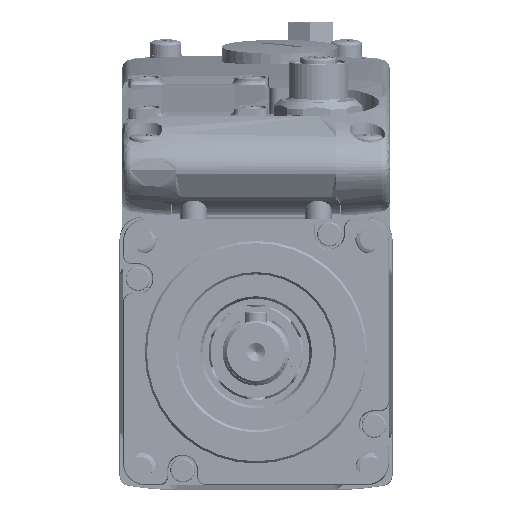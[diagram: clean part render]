
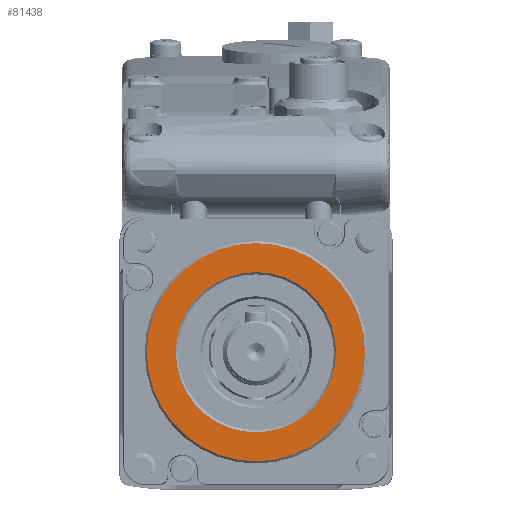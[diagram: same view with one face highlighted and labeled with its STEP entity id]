
A CAD part, top view. The second image highlights one B-rep face of the part: STEP entity #81438.
In plain terms, the highlighted planar face has unit normal (0, 0, 1) as drawn and (0, -1, 0) by its records, which use the part's own axes.
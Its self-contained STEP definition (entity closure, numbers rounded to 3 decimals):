
#3149=CIRCLE('',#85798,24.5);
#3150=CIRCLE('',#85799,18.);
#8573=ORIENTED_EDGE('',*,*,#27016,.F.);
#8574=ORIENTED_EDGE('',*,*,#27017,.T.);
#27016=EDGE_CURVE('',#36228,#36228,#3149,.T.);
#27017=EDGE_CURVE('',#36229,#36229,#3150,.T.);
#36228=VERTEX_POINT('',#112144);
#36229=VERTEX_POINT('',#112146);
#50492=EDGE_LOOP('',(#8573));
#50493=EDGE_LOOP('',(#8574));
#55523=FACE_BOUND('',#50492,.T.);
#55524=FACE_BOUND('',#50493,.T.);
#60534=PLANE('',#85797);
#81438=ADVANCED_FACE('',(#55523,#55524),#60534,.F.);
#85797=AXIS2_PLACEMENT_3D('',#112142,#93167,#93168);
#85798=AXIS2_PLACEMENT_3D('',#112143,#93169,#93170);
#85799=AXIS2_PLACEMENT_3D('',#112145,#93171,#93172);
#93167=DIRECTION('',(0.,1.,0.));
#93168=DIRECTION('',(0.,0.,1.));
#93169=DIRECTION('',(0.,1.,0.));
#93170=DIRECTION('',(0.,0.,1.));
#93171=DIRECTION('',(0.,1.,0.));
#93172=DIRECTION('',(0.,0.,1.));
#112142=CARTESIAN_POINT('',(0.,6.39,25.));
#112143=CARTESIAN_POINT('',(0.,6.39,0.));
#112144=CARTESIAN_POINT('',(0.,6.39,24.5));
#112145=CARTESIAN_POINT('',(0.,6.39,0.));
#112146=CARTESIAN_POINT('',(0.,6.39,18.));
